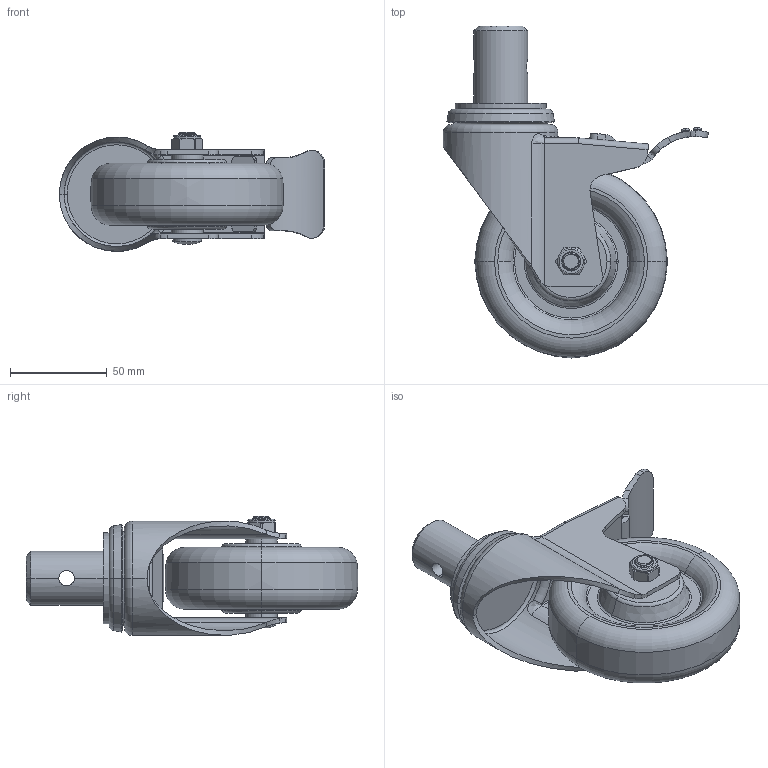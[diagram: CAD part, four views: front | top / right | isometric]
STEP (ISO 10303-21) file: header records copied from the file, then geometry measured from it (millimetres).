
FILE_DESCRIPTION((''),'2;1');
FILE_NAME('50164L-504-86_ASM','2020-01-01T',('L'),(''),'PRO/ENGINEER BY PARAMETRIC TECHNOLOGY CORPORATION, 2010280','PRO/ENGINEER BY PARAMETRIC TECHNOLOGY CORPORATION, 2010280','');
FILE_SCHEMA(('CONFIG_CONTROL_DESIGN'));
Length unit declared in the file: millimetre
Products named in the file (6): 50164; 540-14; 504-986; 570-33; 570-34; 50164L-504-86_ASM
Assembly tree (5 placements, depth 2):
  50164L-504-86_ASM
    50164
    540-14
    504-986
    570-33
    570-34
Bounding box: 137.36 x 171.98 x 61.65 mm (x, y, z)
Volume: 308026.5 mm3; surface area: 73843.9 mm2
Topology: 9 solids, 9 shells, 298 faces, 708 edges, 435 vertices
Faces by surface type: cylinder 108, plane 85, bspline 41, torus 32, cone 30, sphere 2
Entity records: 14160 total; most frequent: CARTESIAN_POINT 7445, ORIENTED_EDGE 1412, DIRECTION 1306, EDGE_CURVE 706, AXIS2_PLACEMENT_3D 511, VERTEX_POINT 435, EDGE_LOOP 317, FACE_OUTER_BOUND 298
